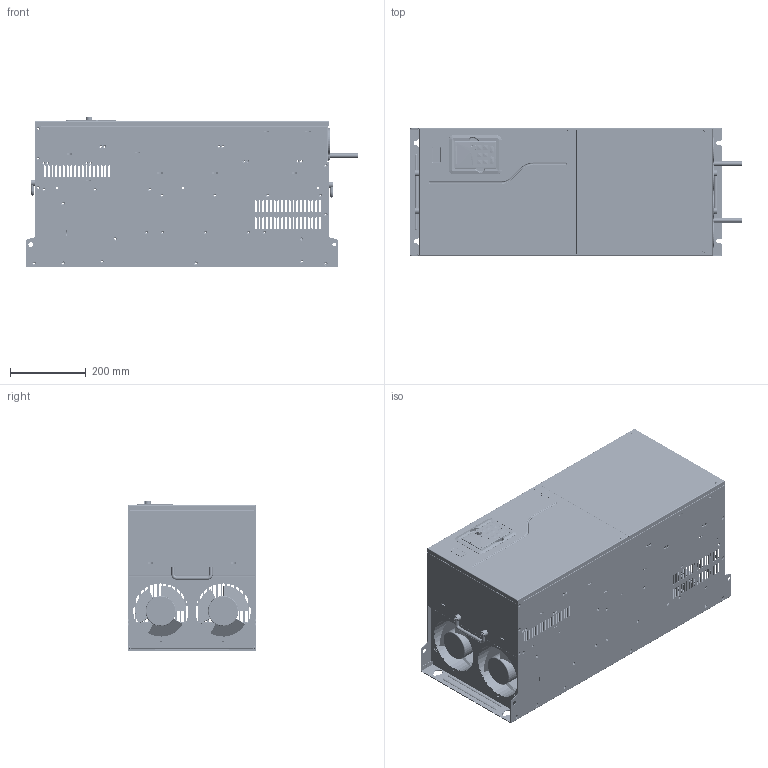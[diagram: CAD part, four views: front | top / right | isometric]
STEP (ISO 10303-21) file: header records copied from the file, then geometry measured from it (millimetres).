
FILE_DESCRIPTION((''),'2;1');
FILE_NAME('GD270-200-4_ASM_ASM','2021-08-24T10:01:00',('Administrator'),(''),'CREO PARAMETRIC BY PTC INC, 2019080','CREO PARAMETRIC BY PTC INC, 2019080','');
FILE_SCHEMA(('CONFIG_CONTROL_DESIGN'));
Products named in the file (98): 80310616_1; S-M4-ZC_1; S-M6-ZC_1; 80310616_ASM_1_ASM; 80386749_1; BSO-M4-16-ZC_1; 80386749_ASM_1_ASM; 80386751_ASM_1; 80386752_ASM_1; 61061653_ASM_1_ASM; 86051621_1; YMD-55-0D8-SL_1; 86051621_ASM_1_ASM; 80386758_1; 61061652_ASM_1_ASM; 61061652SY_1; 61061652SY_ASM_1_ASM; 80386750_1; TPR-4-12-SL_1; 80386750_ASM_1_ASM; 80386759_1; NZ-M8-ZC_1; 80386759_ASM_1_ASM; 80386759SY_1; 80386759SY_ASM_1_ASM; 86051622_1; 86051622_ASM_1_ASM; 80386757_1; 80386757_ASM_1_ASM; 80386754_1; 80386754_ASM_1_ASM; 80386748_1; 80386755_1; BSO-M4-10-ZC_1; FH-M3-6-ZC_1; 80386755_ASM_1_ASM; 80386755SY_1; 80386755SY_ASM_1_ASM; WG-02-0004_1; 80880659_1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
Assembly tree (180 placements, depth 7):
  GD270-200-4_ASM_ASM
    GD270-200-4_ASM_1_ASM
      41060159_ASM_1_ASM
        61061653_ASM_1_ASM
          80310616_ASM_1_ASM
            80310616_1
            S-M4-ZC_1  x6
            S-M6-ZC_1  x6
          80386749_ASM_1_ASM
            80386749_1
            BSO-M4-16-ZC_1  x4
          80386751_ASM_1
          80386752_ASM_1
        61061652SY_ASM_1_ASM
          61061652_ASM_1_ASM
            86051621_ASM_1_ASM
              86051621_1
              YMD-55-0D8-SL_1  x2
            80386758_1
          61061652SY_1
        80386750_ASM_1_ASM
          80386750_1
          S-M4-ZC_1  x14
          TPR-4-12-SL_1  x2
        80386759SY_ASM_1_ASM
          80386759_ASM_1_ASM
            80386759_1
            S-M6-ZC_1  x8
            NZ-M8-ZC_1  x2
          80386759SY_1
        86051622_ASM_1_ASM
          86051622_1
          YMD-55-0D8-SL_1  x2
        80386757_ASM_1_ASM
          80386757_1
          S-M4-ZC_1  x9
        80386754_ASM_1_ASM
          80386754_1
          YMD-55-0D8-SL_1  x2
        80386748_1
        80386755SY_ASM_1_ASM
          80386755_ASM_1_ASM
            80386755_1
            BSO-M4-10-ZC_1  x4
            S-M4-ZC_1  x2
            FH-M3-6-ZC_1
          80386755SY_1
        WG-02-0004_1  x2
        80880659_1
        80386753_ASM_1_ASM
          80386753_1
          S-M4-ZC_1  x2
      GD270-200-4-ES_ASM_1_ASM
        36004-01237_ASM_1_ASM
          36004-01237_1_ASM  x8
            36004-01237_1_1
            36004-01237_1_2
        FAN-171X151_DC_1_ASM  x2
          FAN-171X151_DC_1_1
          FAN-171X151_DC_1_2
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Bounding box: 878 x 338 x 398.3 mm (x, y, z)
Volume: 4231912.5 mm3; surface area: 4818791.3 mm2
Topology: 156 solids, 199 shells, 25764 faces, 68725 edges, 43438 vertices
Faces by surface type: plane 16321, cylinder 5379, bspline 1290, cone 1261, torus 810, sphere 688, extrusion 15
Entity records: 303872 total; most frequent: CARTESIAN_POINT 75868, ORIENTED_EDGE 47399, DIRECTION 46477, EDGE_CURVE 23733, VECTOR 15843, LINE 15835, AXIS2_PLACEMENT_3D 15317, VERTEX_POINT 15144
